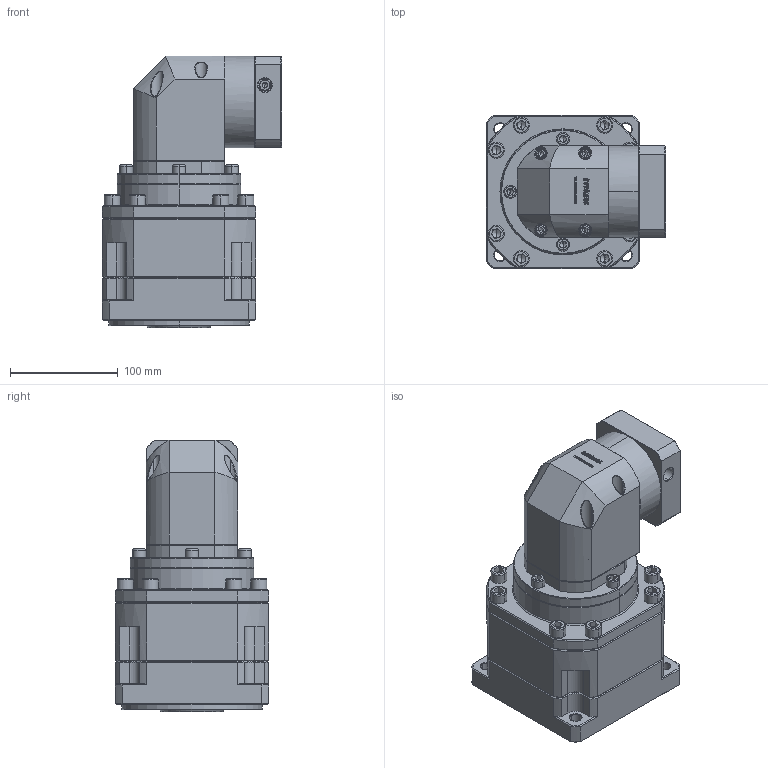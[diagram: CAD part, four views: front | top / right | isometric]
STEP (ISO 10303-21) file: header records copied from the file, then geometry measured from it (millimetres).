
FILE_DESCRIPTION (( 'STEP AP214' ), '1' );
FILE_NAME ('ZB142A-K35-L3-14-73-69.6X69.6-M6.step', '2023-03-20T12:07:38', ( '' ), ( '' ), 'SwSTEP 2.0', 'SolidWorks 2016', '' );
FILE_SCHEMA (( 'AUTOMOTIVE_DESIGN' ));
Length unit declared in the file: millimetre
Products named in the file (1): ZB142A-K35-L3-14-73-69.6X69.6-M6
Bounding box: 166.1 x 142 x 252.2 mm (x, y, z)
Volume: 3190588 mm3; surface area: 238544.3 mm2
Topology: 6 solids, 6 shells, 3265 faces, 8514 edges, 5418 vertices
Faces by surface type: plane 1740, bspline 596, cylinder 486, cone 385, torus 58
Entity records: 169402 total; most frequent: CARTESIAN_POINT 58011, ORIENTED_EDGE 16892, DIRECTION 13390, EDGE_CURVE 8446, LINE 5714, VECTOR 5714, VERTEX_POINT 5418, AXIS2_PLACEMENT_3D 3838
